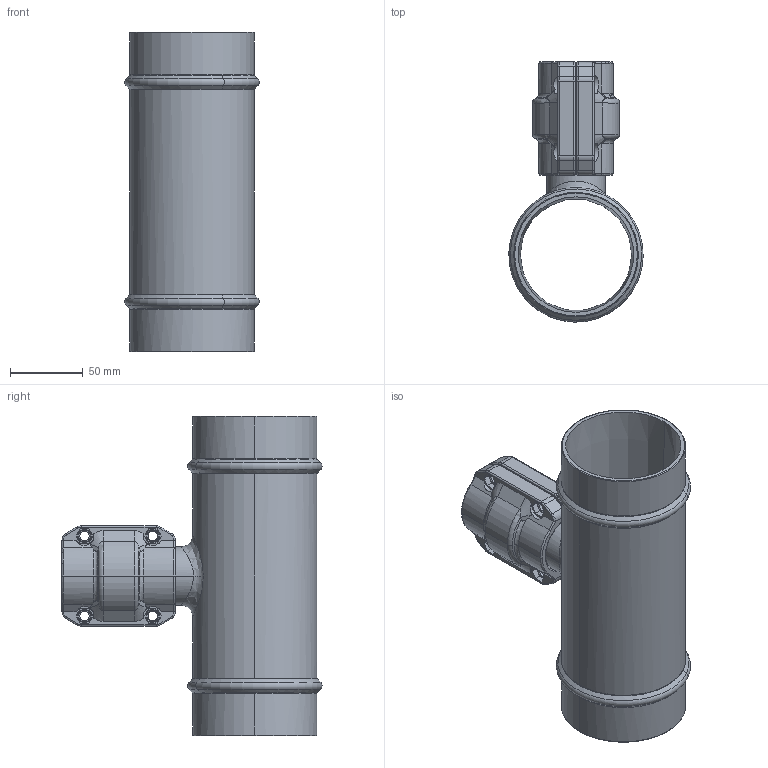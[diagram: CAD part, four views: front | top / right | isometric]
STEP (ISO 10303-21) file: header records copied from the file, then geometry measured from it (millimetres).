
FILE_DESCRIPTION(/* description */ (''),/* implementation_level */ '2;1');
FILE_NAME(/* name */ '7407_stp_stp.stp',/* time_stamp */ '2025-06-23T12:50:28+08:00',/* author */ (''),/* organization */ (''),/* preprocessor_version */ 'ST-DEVELOPER v11',/* originating_system */ 'SIEMENS PLM Software NX 7.5',/* authorisation */ '');
FILE_SCHEMA (('CONFIG_CONTROL_DESIGN'));
Length unit declared in the file: millimetre
Products named in the file (1): AdmiBEADalc0
Bounding box: 92.37 x 178.89 x 220 mm (x, y, z)
Volume: 310722.8 mm3; surface area: 162464.7 mm2
Topology: 3 solids, 3 shells, 651 faces, 1616 edges, 949 vertices
Faces by surface type: cylinder 226, torus 159, bspline 101, plane 83, cone 66, sphere 16
Entity records: 27570 total; most frequent: CARTESIAN_POINT 13058, ORIENTED_EDGE 3180, DIRECTION 2821, EDGE_CURVE 1590, AXIS2_PLACEMENT_3D 1175, VERTEX_POINT 949, EDGE_LOOP 675, ADVANCED_FACE 651
